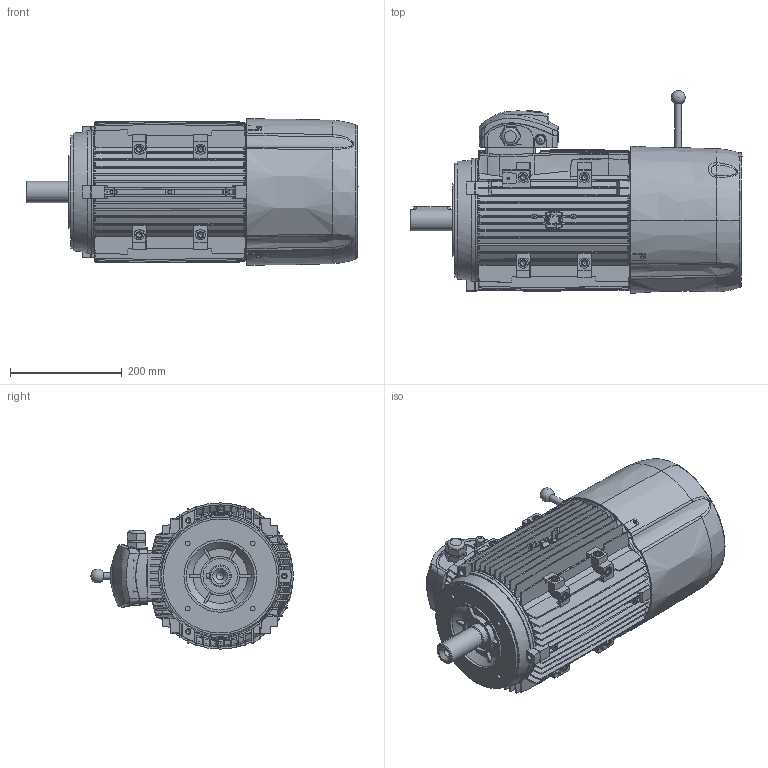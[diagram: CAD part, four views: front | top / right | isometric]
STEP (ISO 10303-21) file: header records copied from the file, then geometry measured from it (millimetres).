
FILE_DESCRIPTION((''),'2;1');
FILE_NAME('D:\htdocs\motive\source_step\M132M.stp','2014-09-10T11:44:37',('ing.Casini'),(''),'Autodesk Inventor 2010','Autodesk Inventor 2010','');
FILE_SCHEMA(('AUTOMOTIVE_DESIGN { 1 0 10303 214 1 1 1 1 }'));
Length unit declared in the file: millimetre
Products named in the file (6): M132M Lighter motor Assly_04.09; BODY132M; B14132; SH132M_4-248-M; TBOXATDC132; FCVATDC132
Assembly tree (5 placements, depth 2):
  M132M Lighter motor Assly_04.09
    BODY132M
    B14132
    SH132M_4-248-M
    TBOXATDC132
    FCVATDC132
Bounding box: 595.4 x 363.49 x 262.2 mm (x, y, z)
Volume: 12757270 mm3; surface area: 1529107.6 mm2
Topology: 7 solids, 7 shells, 2455 faces, 6869 edges, 4551 vertices
Faces by surface type: plane 939, bspline 713, cylinder 386, cone 266, torus 150, sphere 1
Full cylindrical faces by diameter (mm): 2.5 x4, 4.2 x13, 5.556 x1, 5.6 x2, 6 x6, 6.8 x7, 8.5 x16, 10 x3, 12 x14, 13.5 x1, 32 x2, 37.4 x1, 38 x1, 40 x2, 62 x1, 70 x2, 80 x2, 83.5 x1, 122 x1, 130 x1, 204 x2, 211 x3
Entity records: 130653 total; most frequent: CARTESIAN_POINT 73876, ORIENTED_EDGE 13332, DIRECTION 9342, EDGE_CURVE 6666, VERTEX_POINT 4495, AXIS2_PLACEMENT_3D 3457, EDGE_LOOP 2749, B_SPLINE_CURVE_WITH_KNOTS 2464
